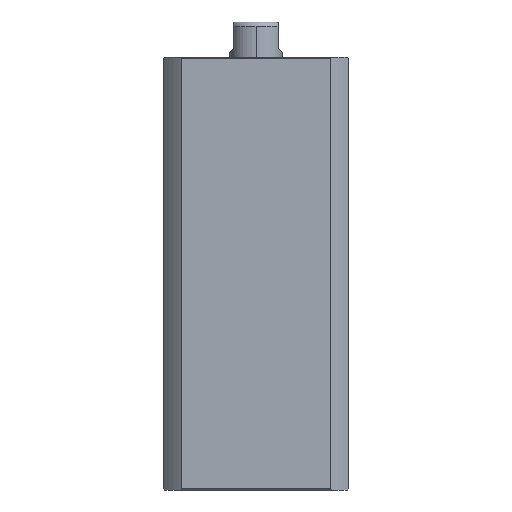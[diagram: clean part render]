
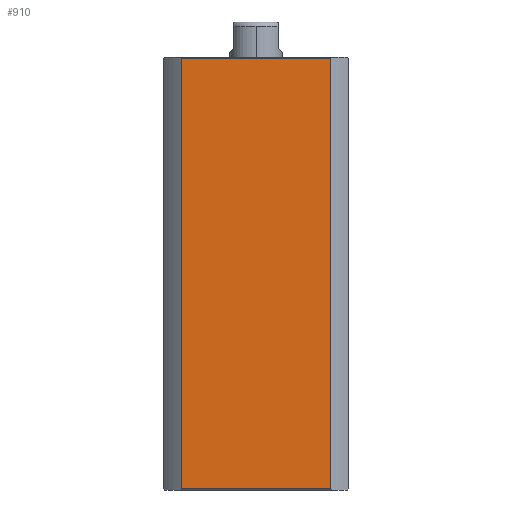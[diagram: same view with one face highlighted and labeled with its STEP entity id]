
A CAD part, left-side view. The second image highlights one B-rep face of the part: STEP entity #910.
In plain terms, the highlighted planar face has unit normal (-1, 0, 0).
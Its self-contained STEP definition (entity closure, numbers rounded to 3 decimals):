
#910 = ADVANCED_FACE ( 'NONE', ( #11502 ), #4859, .F. ) ;
#1262 = VERTEX_POINT ( 'NONE', #11834 ) ;
#1597 = CARTESIAN_POINT ( 'NONE',  ( -21., 21., 97.7 ) ) ;
#1929 = LINE ( 'NONE', #3036, #9125 ) ;
#2279 = LINE ( 'NONE', #3536, #9176 ) ;
#2589 = DIRECTION ( 'NONE',  ( 0., -1., 0. ) ) ;
#2619 = CARTESIAN_POINT ( 'NONE',  ( -21., 16.971, 97.7 ) ) ;
#3036 = CARTESIAN_POINT ( 'NONE',  ( -21., -16.971, -2902. ) ) ;
#3057 = CARTESIAN_POINT ( 'NONE',  ( -21., 21., 98. ) ) ;
#3536 = CARTESIAN_POINT ( 'NONE',  ( -21., 21., 0.3 ) ) ;
#3998 = DIRECTION ( 'NONE',  ( 0., 0., -1. ) ) ;
#4001 = VERTEX_POINT ( 'NONE', #6427 ) ;
#4557 = VERTEX_POINT ( 'NONE', #10585 ) ;
#4620 = ORIENTED_EDGE ( 'NONE', *, *, #4665, .F. ) ;
#4665 = EDGE_CURVE ( 'NONE', #4557, #8447, #4738, .T. ) ;
#4738 = LINE ( 'NONE', #5608, #11624 ) ;
#4859 = PLANE ( 'NONE',  #11143 ) ;
#4868 = DIRECTION ( 'NONE',  ( 1., 0., 0. ) ) ;
#4898 = DIRECTION ( 'NONE',  ( 0., 1., 0. ) ) ;
#5587 = EDGE_CURVE ( 'NONE', #1262, #4001, #1929, .T. ) ;
#5608 = CARTESIAN_POINT ( 'NONE',  ( -21., 16.971, -2902. ) ) ;
#5768 = ORIENTED_EDGE ( 'NONE', *, *, #11082, .T. ) ;
#6427 = CARTESIAN_POINT ( 'NONE',  ( -21., -16.971, 0.3 ) ) ;
#7502 = DIRECTION ( 'NONE',  ( 0., 0., 1. ) ) ;
#8170 = DIRECTION ( 'NONE',  ( 0., 1., 0. ) ) ;
#8447 = VERTEX_POINT ( 'NONE', #2619 ) ;
#9125 = VECTOR ( 'NONE', #3998, 1000. ) ;
#9176 = VECTOR ( 'NONE', #2589, 1000. ) ;
#9476 = LINE ( 'NONE', #1597, #9774 ) ;
#9774 = VECTOR ( 'NONE', #8170, 1000. ) ;
#9795 = ORIENTED_EDGE ( 'NONE', *, *, #5587, .F. ) ;
#10109 = ORIENTED_EDGE ( 'NONE', *, *, #11010, .T. ) ;
#10218 = EDGE_LOOP ( 'NONE', ( #4620, #5768, #9795, #10109 ) ) ;
#10585 = CARTESIAN_POINT ( 'NONE',  ( -21., 16.971, 0.3 ) ) ;
#11010 = EDGE_CURVE ( 'NONE', #1262, #8447, #9476, .T. ) ;
#11082 = EDGE_CURVE ( 'NONE', #4557, #4001, #2279, .T. ) ;
#11143 = AXIS2_PLACEMENT_3D ( 'NONE', #3057, #4868, #4898 ) ;
#11502 = FACE_OUTER_BOUND ( 'NONE', #10218, .T. ) ;
#11624 = VECTOR ( 'NONE', #7502, 1000. ) ;
#11834 = CARTESIAN_POINT ( 'NONE',  ( -21., -16.971, 97.7 ) ) ;
